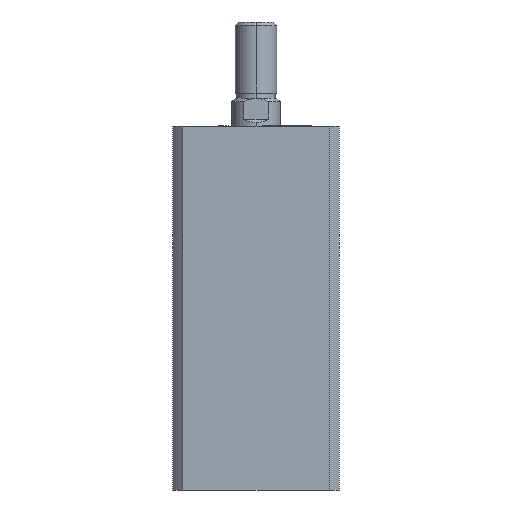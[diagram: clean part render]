
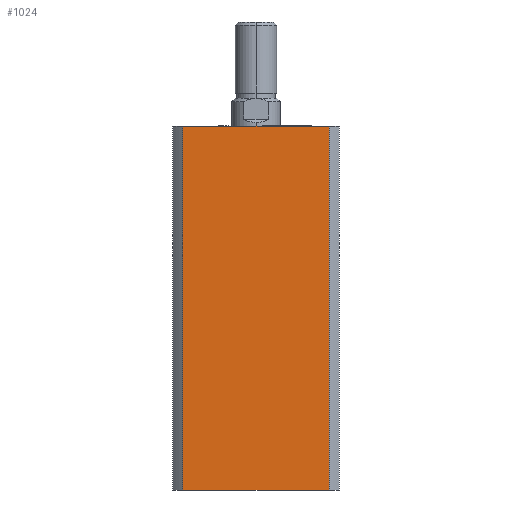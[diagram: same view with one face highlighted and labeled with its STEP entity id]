
A CAD part, left-side view. The second image highlights one B-rep face of the part: STEP entity #1024.
In plain terms, the highlighted planar face has unit normal (-1, 0, 0).
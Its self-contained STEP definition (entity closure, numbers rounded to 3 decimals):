
#608 = CARTESIAN_POINT ( 'NONE',  ( -24., 0., 105. ) ) ;
#614 = PLANE ( 'NONE',  #2016 ) ;
#617 = DIRECTION ( 'NONE',  ( 1., 0., 0. ) ) ;
#618 = DIRECTION ( 'NONE',  ( 0., 0., -1. ) ) ;
#737 = EDGE_CURVE ( 'NONE', #4398, #4177, #3623, .T. ) ;
#738 = EDGE_CURVE ( 'NONE', #2010, #4981, #3622, .T. ) ;
#1024 = ADVANCED_FACE ( 'NONE', ( #3825 ), #614, .F. ) ;
#1331 = CARTESIAN_POINT ( 'NONE',  ( -24., -21.166, 0. ) ) ;
#1377 = CARTESIAN_POINT ( 'NONE',  ( -24., -21.166, 105. ) ) ;
#1397 = CARTESIAN_POINT ( 'NONE',  ( -24., 21.166, 0. ) ) ;
#1741 = EDGE_CURVE ( 'NONE', #4981, #4177, #3980, .T. ) ;
#1744 = EDGE_CURVE ( 'NONE', #2010, #4398, #3983, .T. ) ;
#2010 = VERTEX_POINT ( 'NONE', #3358 ) ;
#2016 = AXIS2_PLACEMENT_3D ( 'NONE', #608, #617, #618 ) ;
#2419 = DIRECTION ( 'NONE',  ( 0., 0., -1. ) ) ;
#2420 = DIRECTION ( 'NONE',  ( 0., 0., -1. ) ) ;
#2422 = CARTESIAN_POINT ( 'NONE',  ( -24., -21.166, 105. ) ) ;
#2434 = CARTESIAN_POINT ( 'NONE',  ( -24., 21.166, 105. ) ) ;
#3358 = CARTESIAN_POINT ( 'NONE',  ( -24., 21.166, 105. ) ) ;
#3598 = EDGE_LOOP ( 'NONE', ( #4358, #4360, #4363, #4364 ) ) ;
#3622 = LINE ( 'NONE', #2434, #3627 ) ;
#3623 = LINE ( 'NONE', #2422, #3625 ) ;
#3625 = VECTOR ( 'NONE', #2420, 1000. ) ;
#3627 = VECTOR ( 'NONE', #2419, 1000. ) ;
#3825 = FACE_OUTER_BOUND ( 'NONE', #3598, .T. ) ;
#3980 = LINE ( 'NONE', #5114, #3982 ) ;
#3982 = VECTOR ( 'NONE', #5122, 1000. ) ;
#3983 = LINE ( 'NONE', #5135, #3986 ) ;
#3986 = VECTOR ( 'NONE', #5130, 1000. ) ;
#4177 = VERTEX_POINT ( 'NONE', #1331 ) ;
#4358 = ORIENTED_EDGE ( 'NONE', *, *, #1741, .T. ) ;
#4360 = ORIENTED_EDGE ( 'NONE', *, *, #737, .F. ) ;
#4363 = ORIENTED_EDGE ( 'NONE', *, *, #1744, .F. ) ;
#4364 = ORIENTED_EDGE ( 'NONE', *, *, #738, .T. ) ;
#4398 = VERTEX_POINT ( 'NONE', #1377 ) ;
#4981 = VERTEX_POINT ( 'NONE', #1397 ) ;
#5114 = CARTESIAN_POINT ( 'NONE',  ( -24., 0., 0. ) ) ;
#5122 = DIRECTION ( 'NONE',  ( 0., -1., 0. ) ) ;
#5130 = DIRECTION ( 'NONE',  ( 0., -1., 0. ) ) ;
#5135 = CARTESIAN_POINT ( 'NONE',  ( -24., 0., 105. ) ) ;
